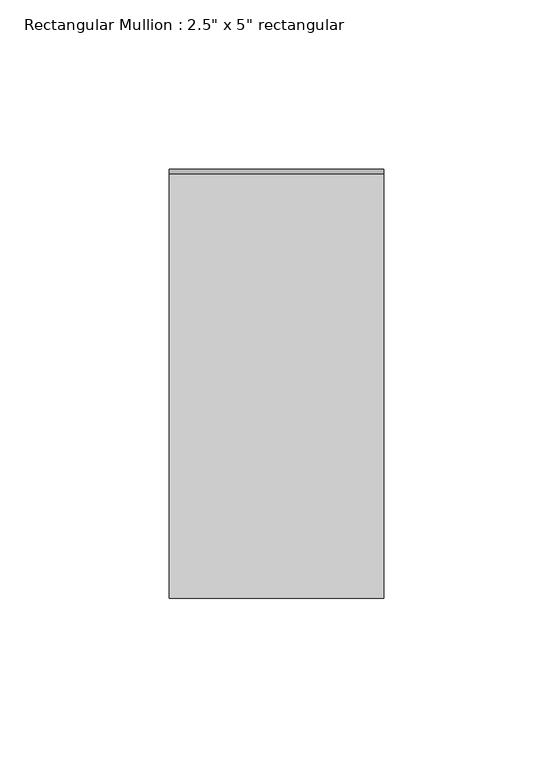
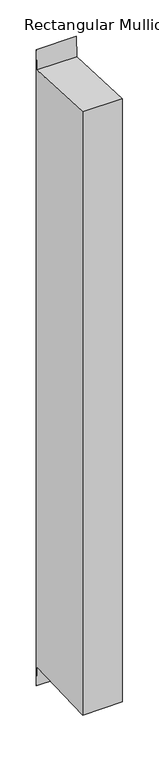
"""IFC4 building model written with IfcOpenShell, lengths in millimetres: member geometry."""

from ifc_helpers import new_model, si_unit, frame, origin, place, context, project, spatial, polyline, outline, extrude, source, transform, mapped, element, save


def member_b9752949(model_context):
    return source(origin(), model_context, "Body", "SweptSolid", [
        extrude(outline(polyline([(-63.5, 2.7618987), (62.043738, -2.7592318), (63.5, 30.3543811), (63.5, -1038.1722316), (62.043738, -1005.0586187), (-63.5, -1010.5797492), (-63.5, 2.7618987)])), frame((-63.5, 0.0, 0.0), z_axis=(1.0, 0.0, 0.0), x_axis=(0.0, 1.0, 0.0)), (0.0, 0.0, 1.0), 63.5),
    ])


if __name__ == "__main__":
    model = new_model("IFC4")
    model_context = context("Model", 3, world=origin())
    ifc_project = project(units=[si_unit("LENGTHUNIT", "METRE", prefix="MILLI")], contexts=[model_context])
    site = spatial("IfcSite", under=ifc_project)
    building = spatial("IfcBuilding", under=site)
    placement = place(None, origin())
    member_shape = member_b9752949(model_context)
    element("IfcMember", 1, ObjectType="Rectangular Mullion : 2.5\" x 5\" rectangular", at=placement, inside=building, context=model_context, shape_type="MappedRepresentation", body=[
        mapped(member_shape, transform((0.0, 0.0, 0.0), x_axis=(1.0, 0.0, 0.0), y_axis=(0.0, 1.0, 0.0), z_axis=(0.0, 0.0, 1.0))),
    ])
    save(model, "model.ifc")
